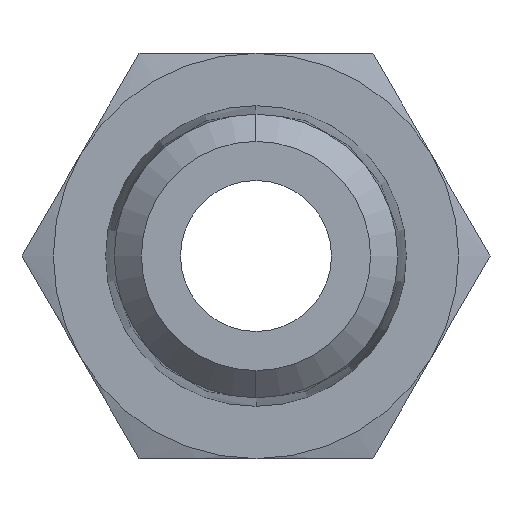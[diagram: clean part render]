
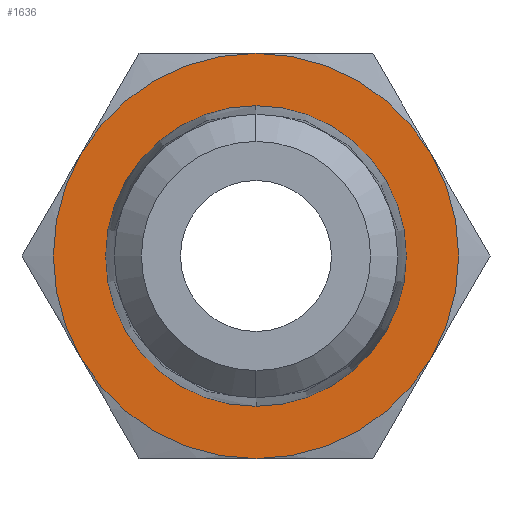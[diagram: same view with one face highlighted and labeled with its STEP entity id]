
A CAD part, left-side view. The second image highlights one B-rep face of the part: STEP entity #1636.
In plain terms, the highlighted planar face has unit normal (-1, 0, 0).
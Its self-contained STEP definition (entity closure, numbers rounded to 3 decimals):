
#651 = CARTESIAN_POINT ( 'NONE',  ( 0., 0., 7.066 ) ) ;
#656 = CARTESIAN_POINT ( 'NONE',  ( 0., 0., -9.525 ) ) ;
#783 = DIRECTION ( 'NONE',  ( 0., 0., -1. ) ) ;
#784 = DIRECTION ( 'NONE',  ( -1., 0., 0. ) ) ;
#785 = CARTESIAN_POINT ( 'NONE',  ( 0., 0., 0. ) ) ;
#786 = AXIS2_PLACEMENT_3D ( 'NONE', #785, #784, #783 ) ;
#787 = CIRCLE ( 'NONE', #786, 7.066 ) ;
#788 = CARTESIAN_POINT ( 'NONE',  ( 0., 0., -7.066 ) ) ;
#876 = CARTESIAN_POINT ( 'NONE',  ( 0., -8.249, 4.763 ) ) ;
#943 = CARTESIAN_POINT ( 'NONE',  ( 0., 8.249, 4.762 ) ) ;
#1128 = CARTESIAN_POINT ( 'NONE',  ( 0., 8.249, -4.762 ) ) ;
#1182 = CARTESIAN_POINT ( 'NONE',  ( 0., -8.249, -4.763 ) ) ;
#1223 = DIRECTION ( 'NONE',  ( 0., 0., -1. ) ) ;
#1224 = DIRECTION ( 'NONE',  ( 1., 0., 0. ) ) ;
#1225 = CARTESIAN_POINT ( 'NONE',  ( 0., 0., 0. ) ) ;
#1226 = AXIS2_PLACEMENT_3D ( 'NONE', #1225, #1224, #1223 ) ;
#1227 = CIRCLE ( 'NONE', #1226, 9.525 ) ;
#1228 = DIRECTION ( 'NONE',  ( 0., 0., 1. ) ) ;
#1229 = DIRECTION ( 'NONE',  ( -1., 0., 0. ) ) ;
#1230 = CARTESIAN_POINT ( 'NONE',  ( 0., 0., 0. ) ) ;
#1231 = AXIS2_PLACEMENT_3D ( 'NONE', #1230, #1229, #1228 ) ;
#1232 = CIRCLE ( 'NONE', #1231, 9.525 ) ;
#1233 = DIRECTION ( 'NONE',  ( 0., 0., -1. ) ) ;
#1234 = DIRECTION ( 'NONE',  ( 1., 0., 0. ) ) ;
#1235 = CARTESIAN_POINT ( 'NONE',  ( 0., 0., 0. ) ) ;
#1236 = AXIS2_PLACEMENT_3D ( 'NONE', #1235, #1234, #1233 ) ;
#1237 = CIRCLE ( 'NONE', #1236, 9.525 ) ;
#1238 = DIRECTION ( 'NONE',  ( 0., 0., -1. ) ) ;
#1239 = DIRECTION ( 'NONE',  ( 0., 0., -1. ) ) ;
#1240 = DIRECTION ( 'NONE',  ( -1., 0., 0. ) ) ;
#1241 = CARTESIAN_POINT ( 'NONE',  ( 0., 0., 0. ) ) ;
#1242 = AXIS2_PLACEMENT_3D ( 'NONE', #1241, #1240, #1239 ) ;
#1243 = CIRCLE ( 'NONE', #1242, 7.066 ) ;
#1244 = CARTESIAN_POINT ( 'NONE',  ( 0., 0., 0. ) ) ;
#1245 = DIRECTION ( 'NONE',  ( 0., 0., -1. ) ) ;
#1246 = DIRECTION ( 'NONE',  ( 1., 0., 0. ) ) ;
#1247 = AXIS2_PLACEMENT_3D ( 'NONE', #1340, #1246, #1245 ) ;
#1252 = DIRECTION ( 'NONE',  ( 1., 0., 0. ) ) ;
#1253 = CARTESIAN_POINT ( 'NONE',  ( 0., 0., 0. ) ) ;
#1254 = AXIS2_PLACEMENT_3D ( 'NONE', #1253, #1252, #1238 ) ;
#1255 = CIRCLE ( 'NONE', #1254, 9.525 ) ;
#1256 = DIRECTION ( 'NONE',  ( 0., 0., -1. ) ) ;
#1257 = DIRECTION ( 'NONE',  ( 1., 0., 0. ) ) ;
#1258 = CARTESIAN_POINT ( 'NONE',  ( 0., 0., 0. ) ) ;
#1259 = AXIS2_PLACEMENT_3D ( 'NONE', #1258, #1257, #1256 ) ;
#1260 = CIRCLE ( 'NONE', #1259, 9.525 ) ;
#1329 = CARTESIAN_POINT ( 'NONE',  ( 0., 0., 9.525 ) ) ;
#1330 = DIRECTION ( 'NONE',  ( 0., 0., -1. ) ) ;
#1331 = DIRECTION ( 'NONE',  ( 1., 0., 0. ) ) ;
#1332 = AXIS2_PLACEMENT_3D ( 'NONE', #1244, #1331, #1330 ) ;
#1333 = CIRCLE ( 'NONE', #1332, 9.525 ) ;
#1335 = FACE_OUTER_BOUND ( 'NONE', #1641, .T. ) ;
#1336 = FACE_BOUND ( 'NONE', #1637, .T. ) ;
#1340 = CARTESIAN_POINT ( 'NONE',  ( 0., 10.999, 0. ) ) ;
#1341 = PLANE ( 'NONE',  #1247 ) ;
#1400 = VERTEX_POINT ( 'NONE', #656 ) ;
#1405 = VERTEX_POINT ( 'NONE', #651 ) ;
#1476 = VERTEX_POINT ( 'NONE', #943 ) ;
#1498 = VERTEX_POINT ( 'NONE', #788 ) ;
#1500 = EDGE_CURVE ( 'NONE', #1498, #1405, #787, .T. ) ;
#1506 = VERTEX_POINT ( 'NONE', #876 ) ;
#1592 = VERTEX_POINT ( 'NONE', #1128 ) ;
#1636 = ADVANCED_FACE ( 'NONE', ( #1336, #1335 ), #1341, .F. ) ;
#1637 = EDGE_LOOP ( 'NONE', ( #1638, #1640 ) ) ;
#1638 = ORIENTED_EDGE ( 'NONE', *, *, #1639, .F. ) ;
#1639 = EDGE_CURVE ( 'NONE', #1405, #1498, #1243, .T. ) ;
#1640 = ORIENTED_EDGE ( 'NONE', *, *, #1500, .F. ) ;
#1641 = EDGE_LOOP ( 'NONE', ( #1642, #1685, #1687, #1689, #1691, #1693 ) ) ;
#1642 = ORIENTED_EDGE ( 'NONE', *, *, #1643, .F. ) ;
#1643 = EDGE_CURVE ( 'NONE', #1400, #1592, #1333, .T. ) ;
#1645 = VERTEX_POINT ( 'NONE', #1329 ) ;
#1668 = VERTEX_POINT ( 'NONE', #1182 ) ;
#1685 = ORIENTED_EDGE ( 'NONE', *, *, #1686, .F. ) ;
#1686 = EDGE_CURVE ( 'NONE', #1668, #1400, #1260, .T. ) ;
#1687 = ORIENTED_EDGE ( 'NONE', *, *, #1688, .F. ) ;
#1688 = EDGE_CURVE ( 'NONE', #1506, #1668, #1255, .T. ) ;
#1689 = ORIENTED_EDGE ( 'NONE', *, *, #1690, .F. ) ;
#1690 = EDGE_CURVE ( 'NONE', #1645, #1506, #1237, .T. ) ;
#1691 = ORIENTED_EDGE ( 'NONE', *, *, #1692, .T. ) ;
#1692 = EDGE_CURVE ( 'NONE', #1645, #1476, #1232, .T. ) ;
#1693 = ORIENTED_EDGE ( 'NONE', *, *, #1694, .F. ) ;
#1694 = EDGE_CURVE ( 'NONE', #1592, #1476, #1227, .T. ) ;
